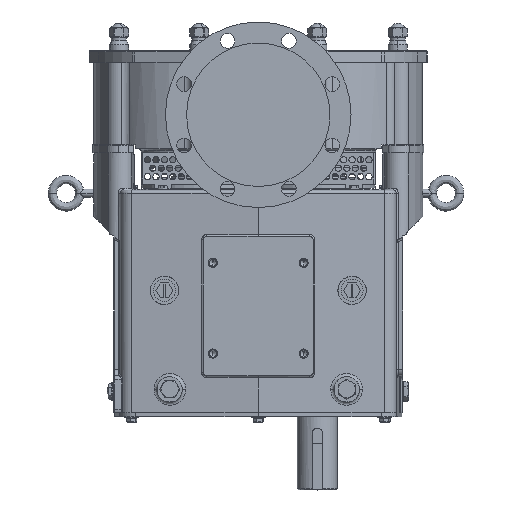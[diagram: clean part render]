
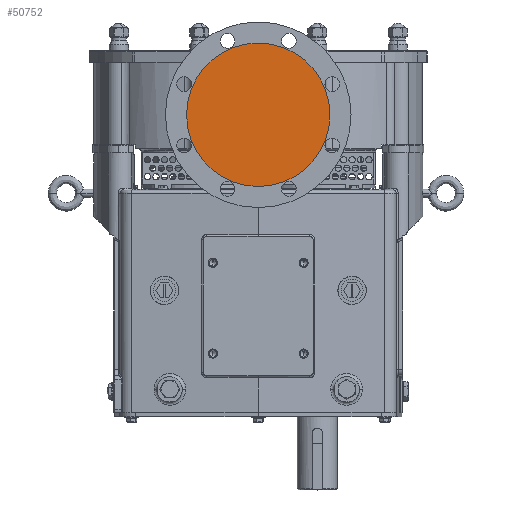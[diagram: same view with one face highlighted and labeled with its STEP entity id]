
A CAD part, left-side view. The second image highlights one B-rep face of the part: STEP entity #50752.
In plain terms, the highlighted planar face has unit normal (-1, 0, 0).
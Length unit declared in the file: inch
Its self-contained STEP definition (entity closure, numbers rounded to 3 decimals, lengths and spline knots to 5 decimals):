
#4700 = EDGE_CURVE ( 'NONE', #79553, #63791, #7952, .T. ) ;
#7952 = CIRCLE ( 'NONE', #55383, 4.25 ) ;
#16451 = AXIS2_PLACEMENT_3D ( 'NONE', #73649, #29979, #81297 ) ;
#23260 = CARTESIAN_POINT ( 'NONE',  ( -8., -3.5, 0.466 ) ) ;
#24116 = ORIENTED_EDGE ( 'NONE', *, *, #63101, .F. ) ;
#29979 = DIRECTION ( 'NONE',  ( -1., 0., 0. ) ) ;
#30566 = DIRECTION ( 'NONE',  ( 0., 1., 0. ) ) ;
#38005 = CARTESIAN_POINT ( 'NONE',  ( -8., -3.5, 0.466 ) ) ;
#45368 = DIRECTION ( 'NONE',  ( 0., 1., 0. ) ) ;
#47396 = CARTESIAN_POINT ( 'NONE',  ( -8., 0.75, 0.466 ) ) ;
#50752 = ADVANCED_FACE ( 'NONE', ( #63679 ), #73948, .T. ) ;
#55014 = AXIS2_PLACEMENT_3D ( 'NONE', #23260, #74548, #30566 ) ;
#55383 = AXIS2_PLACEMENT_3D ( 'NONE', #38005, #89349, #45368 ) ;
#59845 = CIRCLE ( 'NONE', #55014, 4.25 ) ;
#61939 = EDGE_LOOP ( 'NONE', ( #24116, #72277 ) ) ;
#63101 = EDGE_CURVE ( 'NONE', #63791, #79553, #59845, .T. ) ;
#63679 = FACE_OUTER_BOUND ( 'NONE', #61939, .T. ) ;
#63791 = VERTEX_POINT ( 'NONE', #47396 ) ;
#68949 = CARTESIAN_POINT ( 'NONE',  ( -8., -7.75, 0.466 ) ) ;
#72277 = ORIENTED_EDGE ( 'NONE', *, *, #4700, .F. ) ;
#73649 = CARTESIAN_POINT ( 'NONE',  ( -8., -7.75, 0.466 ) ) ;
#73948 = PLANE ( 'NONE',  #16451 ) ;
#74548 = DIRECTION ( 'NONE',  ( 1., 0., 0. ) ) ;
#79553 = VERTEX_POINT ( 'NONE', #68949 ) ;
#81297 = DIRECTION ( 'NONE',  ( 0., -1., 0. ) ) ;
#89349 = DIRECTION ( 'NONE',  ( 1., 0., 0. ) ) ;
